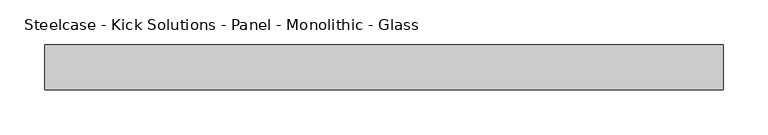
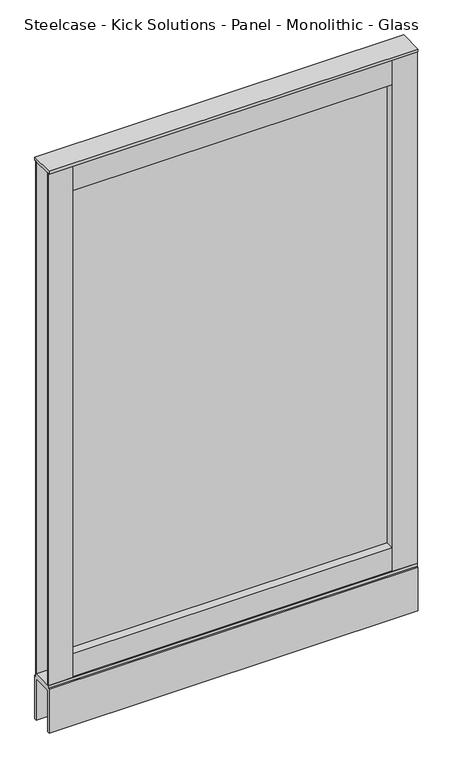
"""IFC4 building model written with IfcOpenShell, lengths in millimetres: furniture geometry, Steelcase - Kick Solutions - Panel - Monolithic - Glass : 48H x 30W."""

from ifc_helpers import new_model, si_unit, frame, origin, place, context, project, spatial, polyline, outline, extrude, source, transform, mapped, element, save


def steelcase_kick_solutions_panel_monolithic_glass_2ac65119(model_context):
    return source(origin(), model_context, "Body", "SweptSolid", [
        extrude(outline(polyline([(711.2006661, -5.08), (711.2006661, -45.7200015), (50.8006646, -45.7200015), (50.8006646, -5.08), (711.2006661, -5.08)])), frame((0.0, 0.0, 101.7169049), z_axis=(0.0, 0.0, 1.0), x_axis=(1.0, 0.0, 0.0)), (0.0, 0.0, 1.0), 50.6830951),
        extrude(outline(polyline([(711.2006661, -5.08), (711.2006661, -45.7200015), (50.8006646, -45.7200015), (50.8006646, -5.08), (711.2006661, -5.08)])), frame((0.0, 0.0, 1162.05), z_axis=(0.0, 0.0, 1.0), x_axis=(1.0, 0.0, 0.0)), (0.0, 0.0, 1.0), 57.15),
        extrude(outline(polyline([(50.8006646, -3.1743148), (50.8006646, -47.6243142), (0.0, -47.6243142), (0.0, -45.7200015), (47.7526646, -45.7200015), (47.7526646, -5.08), (0.0, -5.08), (0.0, -3.1743148), (50.8006646, -3.1743148)])), frame((0.0, 0.0, 101.7169049), z_axis=(0.0, 0.0, 1.0), x_axis=(1.0, 0.0, 0.0)), (0.0, 0.0, 1.0), 1117.4830951),
        extrude(outline(polyline([(711.2006661, -3.1743148), (762.0, -3.1743148), (762.0, -5.08), (714.2486661, -5.08), (714.2486661, -45.7200015), (762.0, -45.7200015), (762.0, -47.6243142), (711.2006661, -47.6243142), (711.2006661, -3.1743148)])), frame((0.0, 0.0, 101.7169049), z_axis=(0.0, 0.0, 1.0), x_axis=(1.0, 0.0, 0.0)), (0.0, 0.0, 1.0), 1117.4830951),
        extrude(outline(polyline([(711.2006661, -28.422537), (50.8006646, -28.422537), (50.8006646, -25.4), (711.2006661, -25.4), (711.2006661, -28.422537)])), frame((0.0, 0.0, 152.4), z_axis=(0.0, 0.0, 1.0), x_axis=(1.0, 0.0, 0.0)), (0.0, 0.0, 1.0), 1009.65),
        extrude(outline(polyline([(762.0, 0.0), (762.0, -50.8000015), (0.0, -50.8000015), (0.0, 0.0), (762.0, 0.0)])), frame((0.0, 0.0, 1219.2), z_axis=(0.0, 0.0, 1.0), x_axis=(1.0, 0.0, 0.0)), (0.0, 0.0, 1.0), 6.35),
        extrude(outline(polyline([(0.0, 0.0), (-5.08, 0.0), (-5.08, 90.2869018), (-45.7200015, 90.2869018), (-45.7200015, 0.0), (-50.8000015, 0.0), (-50.8000015, 95.3669018), (-47.6243142, 95.3669018), (-47.6243142, 101.7169049), (-3.1743148, 101.7169049), (-3.1743148, 95.3669018), (0.0, 95.3669018), (0.0, 0.0)])), frame((0.0, 0.0, 0.0), z_axis=(1.0, 0.0, 0.0), x_axis=(0.0, 1.0, 0.0)), (0.0, 0.0, 1.0), 762.0),
    ])


if __name__ == "__main__":
    model = new_model("IFC4")
    model_context = context("Model", 3, world=origin())
    ifc_project = project(units=[si_unit("LENGTHUNIT", "METRE", prefix="MILLI")], contexts=[model_context])
    site = spatial("IfcSite", under=ifc_project)
    building = spatial("IfcBuilding", under=site)
    placement = place(None, origin())
    steelcase_kick_solutions_panel_monolithic_glass_shape = steelcase_kick_solutions_panel_monolithic_glass_2ac65119(model_context)
    element("IfcFurniture", 1, ObjectType="Steelcase - Kick Solutions - Panel - Monolithic - Glass : 48H x 30W", at=placement, inside=building, context=model_context, shape_type="MappedRepresentation", body=[
        mapped(steelcase_kick_solutions_panel_monolithic_glass_shape, transform((0.0, 0.0, 0.0), x_axis=(1.0, 0.0, 0.0), y_axis=(0.0, 1.0, 0.0), z_axis=(0.0, 0.0, 1.0))),
    ])
    save(model, "model.ifc")
